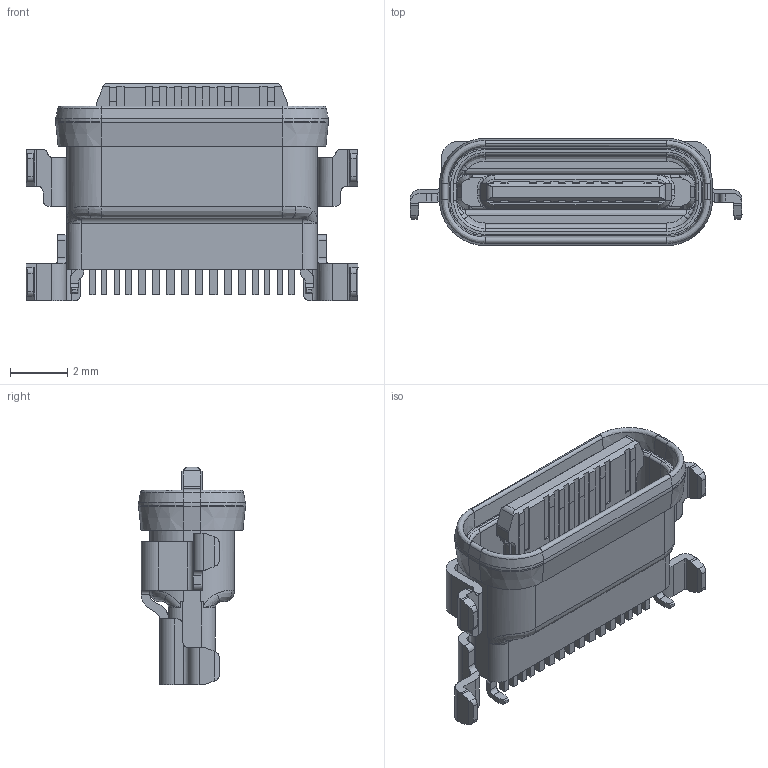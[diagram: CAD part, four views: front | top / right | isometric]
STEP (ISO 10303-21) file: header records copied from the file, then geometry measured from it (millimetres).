
FILE_DESCRIPTION (( 'STEP AP214' ), '1' );
FILE_NAME ('USB4720-03-A_revA.STEP', '2023-10-30T03:42:33', ( '' ), ( '' ), 'SwSTEP 2.0', 'SolidWorks 2021', '' );
FILE_SCHEMA (( 'AUTOMOTIVE_DESIGN' ));
Length unit declared in the file: millimetre
Products named in the file (5): Shell; hsg ass; F1_LIM_gasket; USB4720-03-A_revA
Assembly tree (4 placements, depth 3):
  USB4720-03-A_revA
    Shell
      Shell
      F1_LIM_gasket
    hsg ass
Bounding box: 11.6 x 3.75 x 7.6 mm (x, y, z)
Volume: 89.7 mm3; surface area: 517.2 mm2
Topology: 3 solids, 3 shells, 939 faces, 2566 edges, 1666 vertices
Faces by surface type: plane 614, cylinder 222, bspline 69, cone 34
Entity records: 46156 total; most frequent: CARTESIAN_POINT 21135, ORIENTED_EDGE 5124, DIRECTION 3954, EDGE_CURVE 2562, VECTOR 1774, LINE 1774, VERTEX_POINT 1666, AXIS2_PLACEMENT_3D 1090
